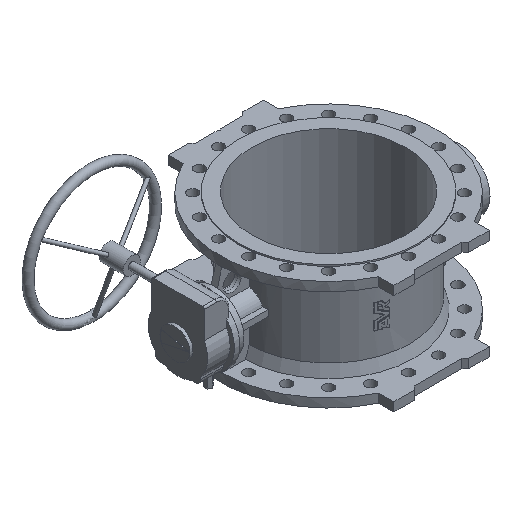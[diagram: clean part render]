
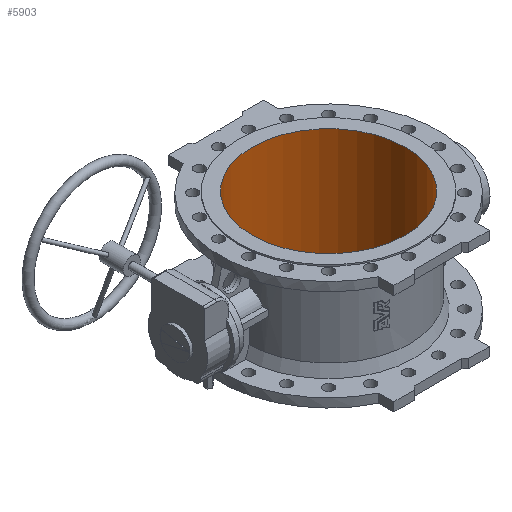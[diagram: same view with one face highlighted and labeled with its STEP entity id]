
A CAD part, isometric view. The second image highlights one B-rep face of the part: STEP entity #5903.
In plain terms, the highlighted cylindrical face has radius 225 mm (diameter 450 mm), a full revolution.
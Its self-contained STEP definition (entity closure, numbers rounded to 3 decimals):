
#57 = EDGE_LOOP ( 'NONE', ( #3723 ) ) ;
#162 = EDGE_LOOP ( 'NONE', ( #3914 ) ) ;
#3223 = CARTESIAN_POINT ( 'NONE',  ( 0., -3., -165. ) ) ;
#3224 = DIRECTION ( 'NONE',  ( 0., 0., 1. ) ) ;
#3225 = DIRECTION ( 'NONE',  ( -1., 0., 0. ) ) ;
#3723 = ORIENTED_EDGE ( 'NONE', *, *, #4293, .T. ) ;
#3914 = ORIENTED_EDGE ( 'NONE', *, *, #16350, .F. ) ;
#4076 = CARTESIAN_POINT ( 'NONE',  ( -225., -3., 165. ) ) ;
#4144 = CARTESIAN_POINT ( 'NONE',  ( -225., -3., -165. ) ) ;
#4293 = EDGE_CURVE ( 'NONE', #10358, #10358, #4965, .T. ) ;
#4421 = AXIS2_PLACEMENT_3D ( 'NONE', #7074, #7073, #7075 ) ;
#4499 = AXIS2_PLACEMENT_3D ( 'NONE', #9036, #9035, #9034 ) ;
#4965 = CIRCLE ( 'NONE', #4499, 225. ) ;
#5270 = FACE_OUTER_BOUND ( 'NONE', #162, .T. ) ;
#5273 = FACE_OUTER_BOUND ( 'NONE', #57, .T. ) ;
#5275 = CYLINDRICAL_SURFACE ( 'NONE', #4421, 225. ) ;
#5903 = ADVANCED_FACE ( 'NONE', ( #5270, #5273 ), #5275, .F. ) ;
#7073 = DIRECTION ( 'NONE',  ( 0., 0., 1. ) ) ;
#7074 = CARTESIAN_POINT ( 'NONE',  ( 0., -3., 133.661 ) ) ;
#7075 = DIRECTION ( 'NONE',  ( -1., 0., 0. ) ) ;
#9034 = DIRECTION ( 'NONE',  ( -1., 0., 0. ) ) ;
#9035 = DIRECTION ( 'NONE',  ( 0., 0., 1. ) ) ;
#9036 = CARTESIAN_POINT ( 'NONE',  ( 0., -3., 165. ) ) ;
#10118 = CIRCLE ( 'NONE', #16677, 225. ) ;
#10358 = VERTEX_POINT ( 'NONE', #4076 ) ;
#10444 = VERTEX_POINT ( 'NONE', #4144 ) ;
#16350 = EDGE_CURVE ( 'NONE', #10444, #10444, #10118, .T. ) ;
#16677 = AXIS2_PLACEMENT_3D ( 'NONE', #3223, #3224, #3225 ) ;
